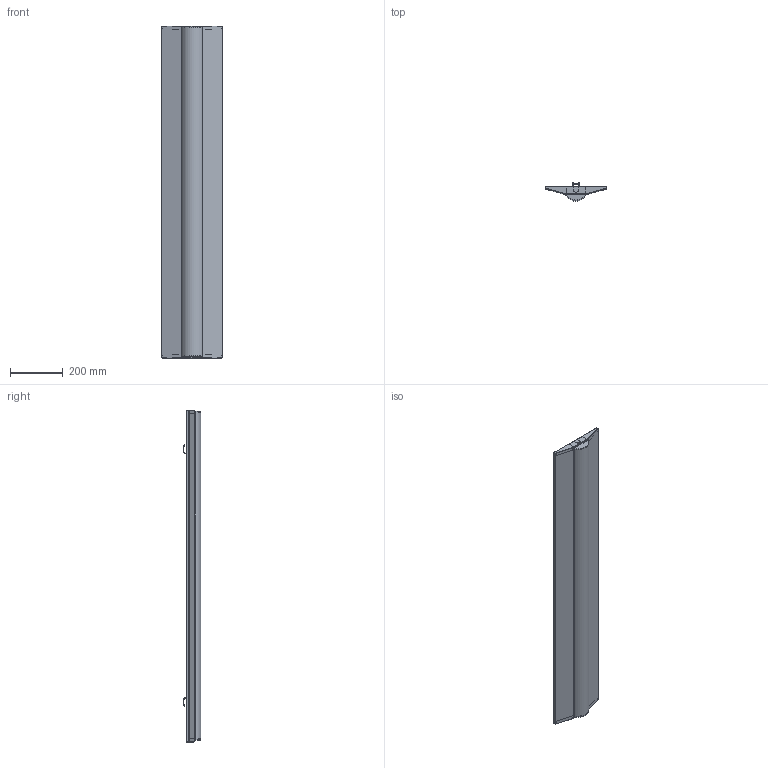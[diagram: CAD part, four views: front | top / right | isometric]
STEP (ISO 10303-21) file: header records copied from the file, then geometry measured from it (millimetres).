
FILE_DESCRIPTION (( 'STEP AP214' ), '1' );
FILE_NAME ('230_2.STEP', '2025-04-20T07:11:29', ( '' ), ( '' ), 'SwSTEP 2.0', 'SolidWorks 2014', '' );
FILE_SCHEMA (( 'AUTOMOTIVE_DESIGN' ));
Length unit declared in the file: millimetre
Products named in the file (17): 230_組; Component2; Base_組; 引掛け金具; 拡散カバー組; ばね組_1 v2; 230_サイドカバー; PC拡散; 230_ベース; サイドプレート; spring_1 v2; 電源ケース; Component5; 230_2; ライトベース
Assembly tree (20 placements, depth 6):
  230_2
    230_組
      230_ベース
      230_サイドカバー  x2
      引掛け金具  x2
    Base_組
      ライトベース
      電源ケース
      拡散カバー組
        サイドプレート  x2
        PC拡散
      ばね組_1 v2  x2
        ばね組_1 v2
          Component2
          spring_1 v2
            spring_1 v2
            Component5
Bounding box: 230 x 67.68 x 1260.5 mm (x, y, z)
Volume: 371777.1 mm3; surface area: 1472195.7 mm2
Topology: 20 solids, 20 shells, 1003 faces, 2888 edges, 1899 vertices
Faces by surface type: plane 649, cylinder 290, sphere 24, torus 20, bspline 20
Entity records: 26452 total; most frequent: CARTESIAN_POINT 8216, ORIENTED_EDGE 3788, DIRECTION 3529, EDGE_CURVE 1894, VECTOR 1383, LINE 1383, VERTEX_POINT 1249, AXIS2_PLACEMENT_3D 1073
